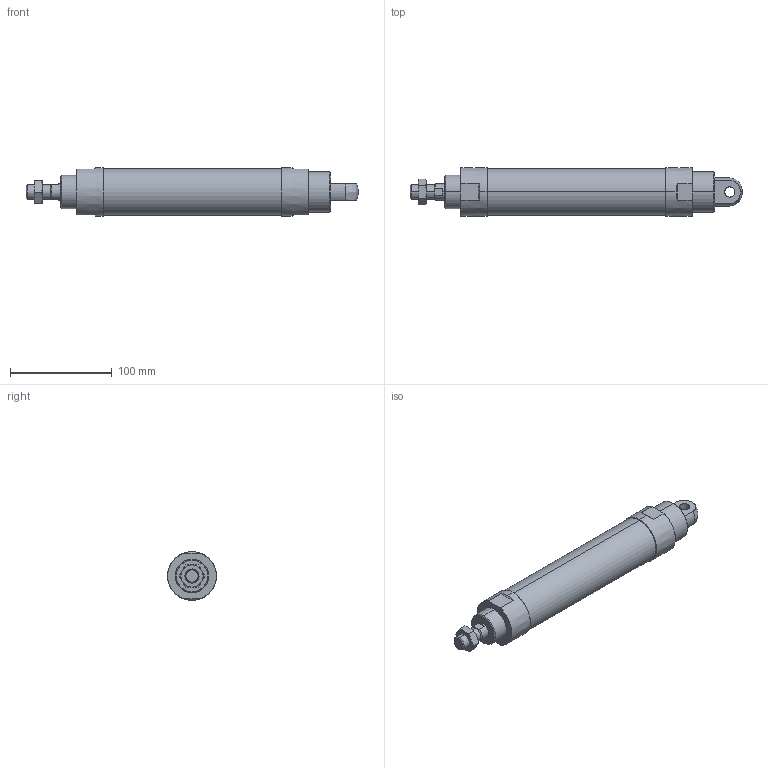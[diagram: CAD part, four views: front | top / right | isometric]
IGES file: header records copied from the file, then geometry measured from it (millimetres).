
Start section: SolidWorks IGES file using analytic representation for surfaces
Global section: file name: C:\Users\Toshiba\Desktop\J#2-40-125-C.IGS; native system: SolidWorks 2014; preprocessor: SolidWorks 2014; author: Toshiba; date: 160308.155935; units: millimetre
Bounding box: 327 x 48 x 48 mm (x, y, z)
Surface area: 47788.9 mm2 (no closed solid volume)
Topology: 0 solids, 0 shells, 81 faces, 1622 edges, 1618 vertices
Faces by surface type: bspline 42, revolution 39
